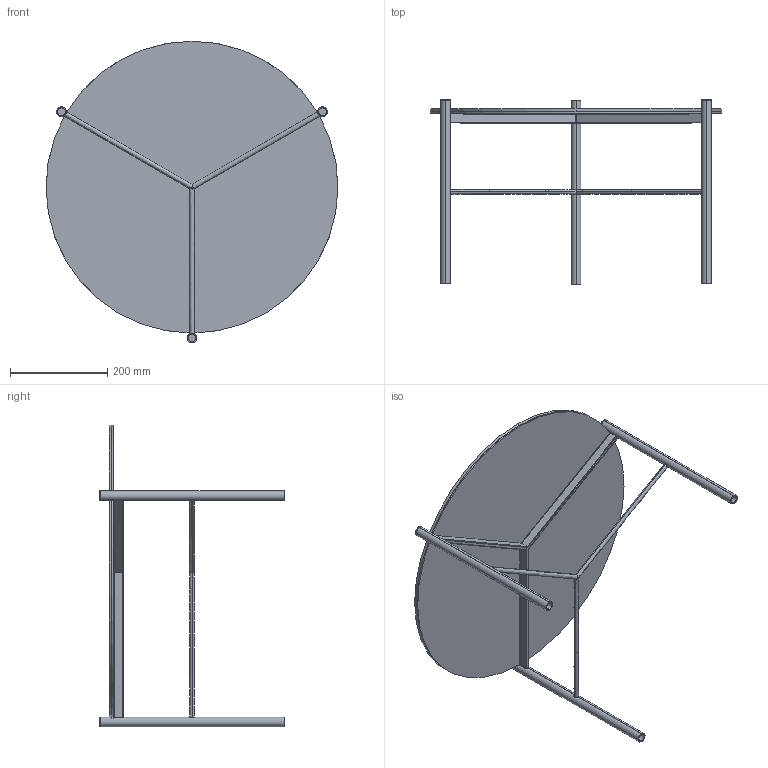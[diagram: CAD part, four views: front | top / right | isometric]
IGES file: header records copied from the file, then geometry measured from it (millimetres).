
Start section: SolidWorks IGES file using analytic representation for surfaces
Global section: file name: Y:\eforma\TECNICO\SOLIDWORKS\E-FORMA\2-TAVOLINI\JACK\02 parts\J201G.IGS; native system: SolidWorks 2022; preprocessor: SolidWorks 2022; author: eforma.tech; date: 240806.133152; units: millimetre
Bounding box: 600 x 379 x 620.07 mm (x, y, z)
Volume: 2745190.3 mm3; surface area: 1420691.9 mm2
Topology: 14 solids, 14 shells, 125 faces, 293 edges, 194 vertices
Faces by surface type: revolution 73, plane 52
